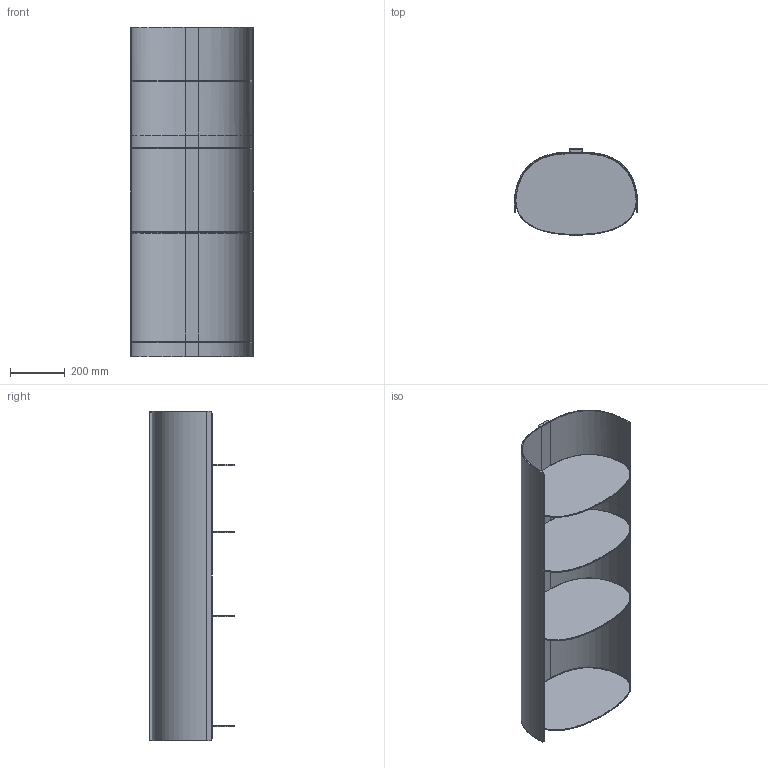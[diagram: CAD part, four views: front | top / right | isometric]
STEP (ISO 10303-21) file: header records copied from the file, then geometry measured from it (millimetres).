
FILE_DESCRIPTION(/* description */ (''),/* implementation_level */ '2;1');
FILE_NAME(/* name */ '202207_Pulpo_Comoshelf_medium',/* time_stamp */ '2022-07-05T09:58:11+02:00',/* author */ (''),/* organization */ (''),/* preprocessor_version */ 'ST-DEVELOPER v16.5',/* originating_system */ 'Rhino 7.19',/* authorisation */ '');
FILE_SCHEMA (('CONFIG_CONTROL_DESIGN'));
Length unit declared in the file: millimetre
Products named in the file (1): Document
Bounding box: 450 x 311.97 x 1200 mm (x, y, z)
Volume: 5580439.7 mm3; surface area: 2797525.2 mm2
Topology: 7 solids, 7 shells, 158 faces, 344 edges, 200 vertices
Faces by surface type: bspline 56, plane 53, cylinder 49
Entity records: 12634 total; most frequent: CARTESIAN_POINT 10377, ORIENTED_EDGE 688, EDGE_CURVE 344, VERTEX_POINT 200, EDGE_LOOP 164, ADVANCED_FACE 158, FACE_OUTER_BOUND 158, B_SPLINE_CURVE_WITH_KNOTS 119
